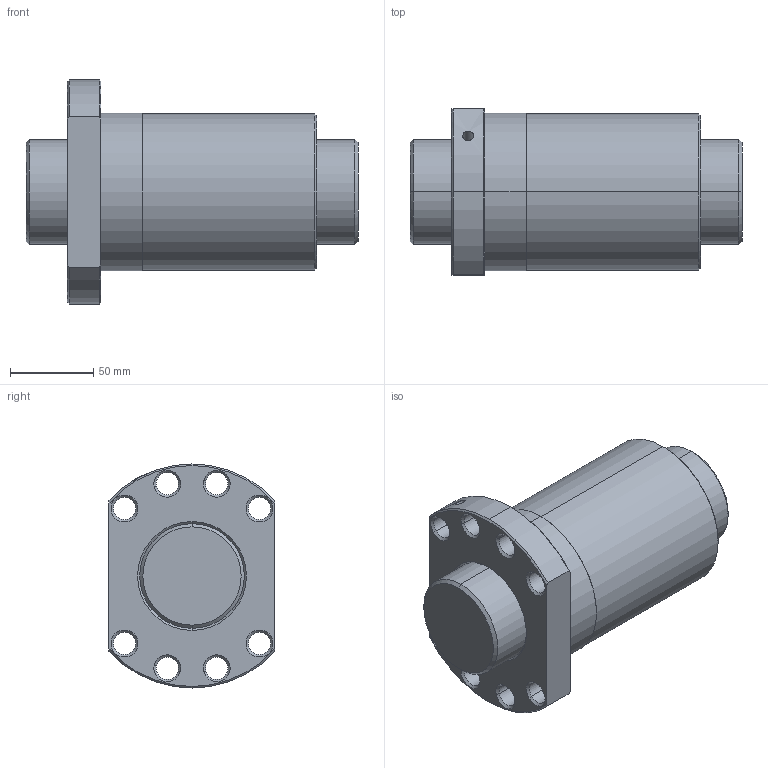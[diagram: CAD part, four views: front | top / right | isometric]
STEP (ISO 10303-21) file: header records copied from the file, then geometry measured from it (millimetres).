
FILE_DESCRIPTION(('no description'),'unknown implementation level');
FILE_NAME('R63_20T4_DEB_200_200_0_023_50.stp',' ',('HIWIN GmbH'),('CADClick - KiM GmbH - www.kimweb.de'),'unknown preprocess','ACIS','unknown authorization');
FILE_SCHEMA(('CONFIG_CONTROL_DESIGN'));
Length unit declared in the file: millimetre
Products named in the file (2): 1; 2
Bounding box: 200 x 100 x 135 mm (x, y, z)
Volume: 1278873.3 mm3; surface area: 143399.1 mm2
Topology: 2 solids, 2 shells, 90 faces, 204 edges, 119 vertices
Faces by surface type: cone 52, cylinder 30, plane 8
Entity records: 2677 total; most frequent: CARTESIAN_POINT 496, DIRECTION 484, ORIENTED_EDGE 404, EDGE_CURVE 202, AXIS2_PLACEMENT_3D 200, VERTEX_POINT 119, EDGE_LOOP 111, CIRCLE 108
